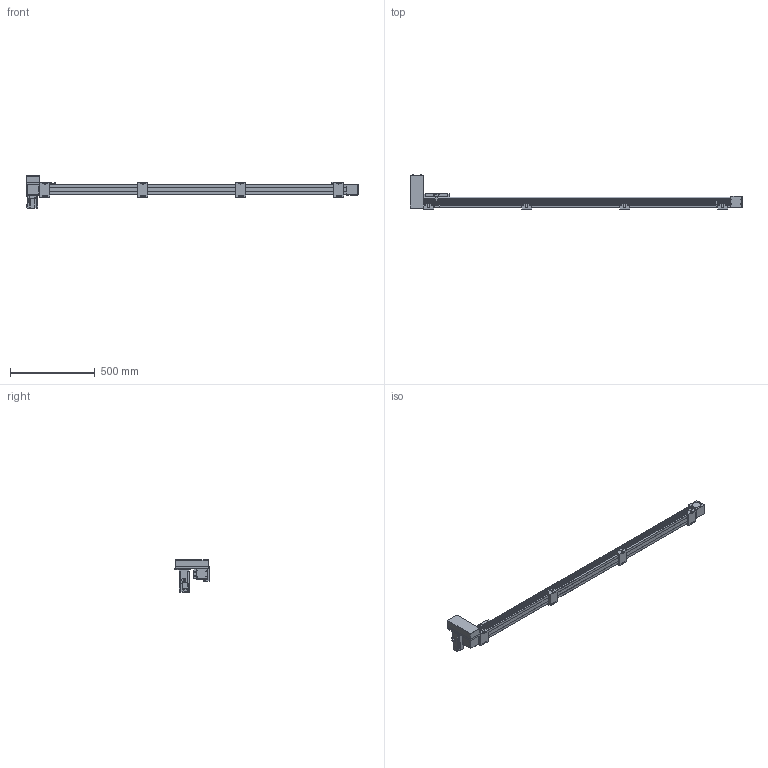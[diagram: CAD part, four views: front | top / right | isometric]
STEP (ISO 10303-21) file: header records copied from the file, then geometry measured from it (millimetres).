
FILE_DESCRIPTION(/* description */ ('STEP AP214'),/* implementation_level */ '2;1');
FILE_NAME(/* name */ 'SK60-P13-S1650-RU-T40-C1-N(0)',/* time_stamp */ '2023-04-06T05:04:37+02:00',/* author */ ('License CC BY-ND 4.0'),/* organization */ ('CADENAS'),/* preprocessor_version */ 'ST-DEVELOPER v19.3',/* originating_system */ 'PARTsolutions',/* authorisation */ ' ');
FILE_SCHEMA (('AUTOMOTIVE_DESIGN {1 0 10303 214 3 1 1}'));
Length unit declared in the file: millimetre
Products named in the file (10): SK60-P13-S1650-RU-T40-C1-N(0); PSC140-sensor; SK60-S450_seat; SK60-S450-BL-C1_slider; SK60_body3; SK60_body6; SK60-BL_body2; T40-p1; SK60-RU_fb; SK60-S1650-RU-C1_body
Assembly tree (18 placements, depth 2):
  SK60-P13-S1650-RU-T40-C1-N(0)
    PSC140-sensor  x3
    SK60-S450_seat  x4
    SK60-S450-BL-C1_slider
    SK60_body3  x3
    SK60_body6  x2
    SK60-BL_body2  x2
    T40-p1
    SK60-RU_fb
    SK60-S1650-RU-C1_body
Bounding box: 1955.5 x 201 x 189.7 mm (x, y, z)
Volume: 7854772.5 mm3; surface area: 954157.4 mm2
Topology: 18 solids, 18 shells, 898 faces, 2244 edges, 1477 vertices
Faces by surface type: plane 572, cylinder 294, cone 30, torus 2
Full cylindrical faces by diameter (mm): 2.8 x3, 3.3 x4, 4 x2, 4.5 x30, 4.6 x3, 4.917 x24, 5 x6, 5.478 x4, 5.5 x27, 6.5 x8, 7 x2, 8 x4, 8.5 x4, 9.988 x4, 10 x16, 14 x1, 47 x3, 50 x2
Entity records: 18671 total; most frequent: DIRECTION 3188, CARTESIAN_POINT 3152, ORIENTED_EDGE 2940, EDGE_CURVE 1470, AXIS2_PLACEMENT_3D 1070, LINE 1048, VECTOR 1048, VERTEX_POINT 1034
